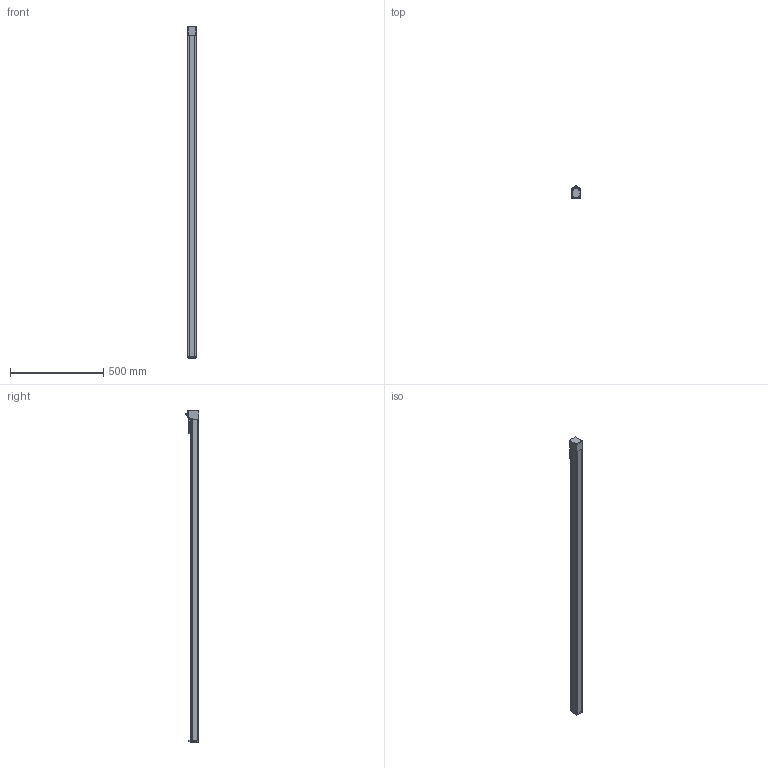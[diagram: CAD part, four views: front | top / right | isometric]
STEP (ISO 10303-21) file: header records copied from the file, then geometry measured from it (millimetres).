
FILE_DESCRIPTION(/* description */ ('STEP AP203'),/* implementation_level */ '2;1');
FILE_NAME(/* name */ 'MGTB 45 1600(0)',/* time_stamp */ '2023-04-17T14:34:48+02:00',/* author */ ('License CC BY-ND 4.0'),/* organization */ ('CADENAS'),/* preprocessor_version */ 'ST-DEVELOPER v19.3',/* originating_system */ 'PARTsolutions',/* authorisation */ ' ');
FILE_SCHEMA (('CONFIG_CONTROL_DESIGN'));
Length unit declared in the file: millimetre
Products named in the file (6): MGTB 45 1600(0); MGTB 45 1600_protection_strip; MGTB 45_carriage; MGTB 45_end_block; MGTB 45 1600_profile; MGTB 45_drive_block
Assembly tree (5 placements, depth 2):
  MGTB 45 1600(0)
    MGTB 45 1600_protection_strip
    MGTB 45_carriage
    MGTB 45_end_block
    MGTB 45 1600_profile
    MGTB 45_drive_block
Bounding box: 45 x 70.85 x 1783 mm (x, y, z)
Volume: 3445795.9 mm3; surface area: 524467.1 mm2
Topology: 5 solids, 5 shells, 689 faces, 1789 edges, 1148 vertices
Faces by surface type: plane 324, cylinder 173, cone 95, bspline 68, torus 27, sphere 2
Full cylindrical faces by diameter (mm): 1.755 x4, 2.459 x10, 2.5 x6, 3 x6, 3.242 x8, 3.8 x6, 4 x2, 4.5 x2, 5.5 x4, 6.5 x4, 8 x1, 11 x3, 12 x1, 17.12 x1, 17.5 x1, 22.5 x1, 22.88 x1, 24.5 x1, 28 x1, 34 x2
Entity records: 25093 total; most frequent: CARTESIAN_POINT 4289, DIRECTION 3438, ORIENTED_EDGE 3206, EDGE_CURVE 1603, AXIS2_PLACEMENT_3D 1244, VERTEX_POINT 1133, LINE 950, VECTOR 950
